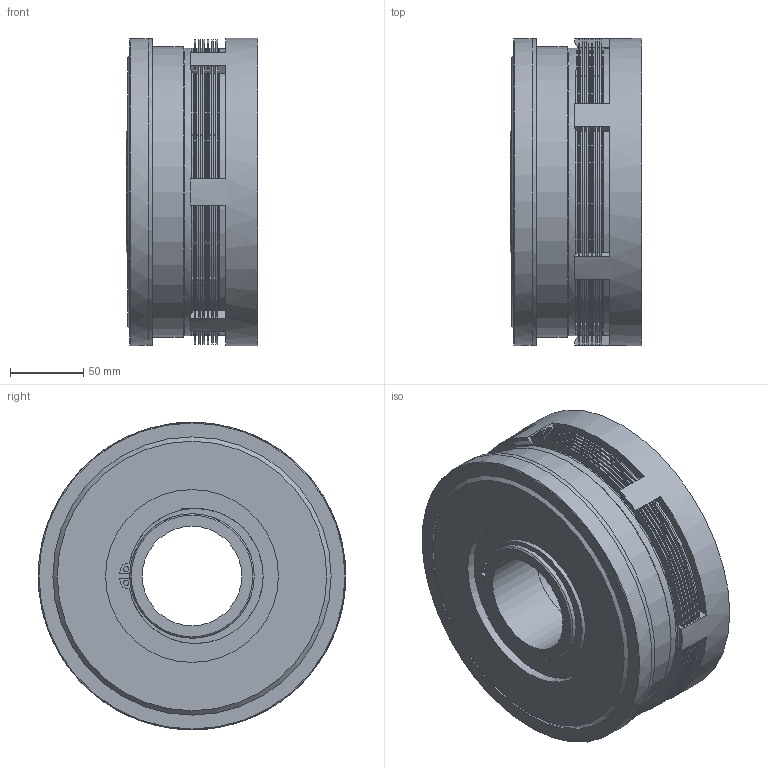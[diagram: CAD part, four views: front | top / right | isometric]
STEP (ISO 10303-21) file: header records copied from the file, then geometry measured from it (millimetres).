
FILE_DESCRIPTION(/* description */ (''),/* implementation_level */ '2;1');
FILE_NAME(/* name */ 'X:\INVENTOR\DISEGNI\05_Friz_Elettmag-Lam\05_03 EC_C\05_03_210_01 EC210_C\05_03_210_01 EC210_C@STEP.stp',/* time_stamp */ '2023-03-08T16:45:29+01:00',/* author */ ('alessio'),/* organization */ (''),/* preprocessor_version */ 'ST-DEVELOPER v18.1',/* originating_system */ 'Autodesk Inventor 2021',/* authorisation */ '');
FILE_SCHEMA (('AUTOMOTIVE_DESIGN { 1 0 10303 214 3 1 1 }'));
Products named in the file (1): 05_03_210_01 EC210_C
Bounding box: 90 x 210 x 210 mm (x, y, z)
Volume: 2243368.7 mm3; surface area: 758157.3 mm2
Topology: 7 solids, 11 shells, 2862 faces, 9806 edges, 6446 vertices
Faces by surface type: cylinder 2184, plane 591, cone 85, torus 2
Full cylindrical faces by diameter (mm): 3.5 x2, 68 x2, 70 x1, 75 x1, 82 x1, 85 x1, 99 x1, 118 x1, 120 x1, 142 x2, 170 x2, 190 x2, 191 x1, 196 x1, 196.5 x1, 197.5 x1, 198.5 x1, 210 x3
Entity records: 113975 total; most frequent: DIRECTION 21349, CARTESIAN_POINT 19641, ORIENTED_EDGE 19608, EDGE_CURVE 9804, AXIS2_PLACEMENT_3D 8845, VERTEX_POINT 6446, CIRCLE 5982, LINE 3659
